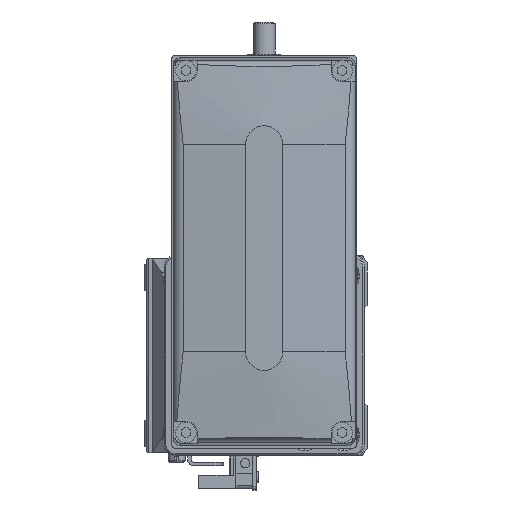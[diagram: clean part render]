
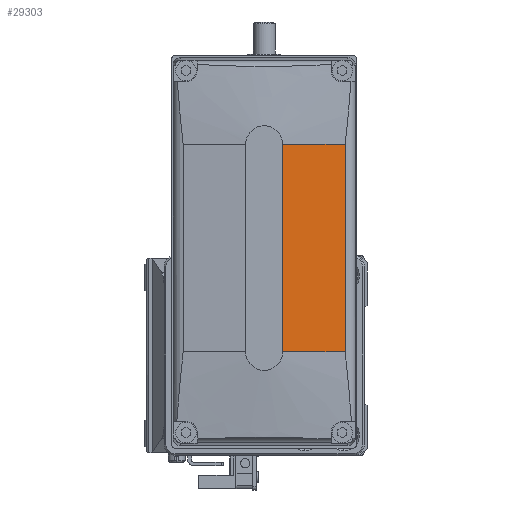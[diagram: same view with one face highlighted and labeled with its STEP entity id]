
A CAD part, left-side view. The second image highlights one B-rep face of the part: STEP entity #29303.
In plain terms, the highlighted planar face has unit normal (-0.996, -0.087, 0) as drawn and (-0.996, 0, -0.087) by its records, which use the part's own axes.
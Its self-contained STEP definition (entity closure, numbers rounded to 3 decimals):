
#229 = DIRECTION ( 'NONE',  ( 0., 1., 0. ) ) ;
#503 = LINE ( 'NONE', #14384, #16624 ) ;
#581 = CARTESIAN_POINT ( 'NONE',  ( -50., 128., -5. ) ) ;
#3541 = DIRECTION ( 'NONE',  ( -0.996, 0., -0.087 ) ) ;
#3961 = CARTESIAN_POINT ( 'NONE',  ( -48.525, -28., -21.861 ) ) ;
#4616 = CARTESIAN_POINT ( 'NONE',  ( -48.525, 128., -21.861 ) ) ;
#4740 = VERTEX_POINT ( 'NONE', #30480 ) ;
#5362 = CARTESIAN_POINT ( 'NONE',  ( -50., 28., -5. ) ) ;
#5903 = LINE ( 'NONE', #4616, #27339 ) ;
#5975 = LINE ( 'NONE', #33634, #19536 ) ;
#6218 = DIRECTION ( 'NONE',  ( 0.087, 0., -0.996 ) ) ;
#7740 = DIRECTION ( 'NONE',  ( 0., 1., 0. ) ) ;
#9220 = ORIENTED_EDGE ( 'NONE', *, *, #19592, .T. ) ;
#11692 = DIRECTION ( 'NONE',  ( -0.087, 0., 0.996 ) ) ;
#11763 = ORIENTED_EDGE ( 'NONE', *, *, #31510, .F. ) ;
#14384 = CARTESIAN_POINT ( 'NONE',  ( -50., 128., -5. ) ) ;
#16624 = VECTOR ( 'NONE', #229, 1000. ) ;
#19536 = VECTOR ( 'NONE', #27732, 1000. ) ;
#19592 = EDGE_CURVE ( 'NONE', #27365, #33649, #503, .T. ) ;
#19841 = CARTESIAN_POINT ( 'NONE',  ( -50., -28., -5. ) ) ;
#21389 = AXIS2_PLACEMENT_3D ( 'NONE', #581, #3541, #11692 ) ;
#21519 = VECTOR ( 'NONE', #6218, 1000. ) ;
#22853 = CARTESIAN_POINT ( 'NONE',  ( 43606.406, -28., -499000. ) ) ;
#23189 = ORIENTED_EDGE ( 'NONE', *, *, #34562, .F. ) ;
#23890 = EDGE_LOOP ( 'NONE', ( #23189, #35617, #11763, #9220 ) ) ;
#24160 = LINE ( 'NONE', #22853, #21519 ) ;
#26441 = VERTEX_POINT ( 'NONE', #3961 ) ;
#27339 = VECTOR ( 'NONE', #7740, 1000. ) ;
#27365 = VERTEX_POINT ( 'NONE', #19841 ) ;
#27732 = DIRECTION ( 'NONE',  ( -0.087, 0., 0.996 ) ) ;
#29303 = ADVANCED_FACE ( 'NONE', ( #29487 ), #33717, .T. ) ;
#29487 = FACE_OUTER_BOUND ( 'NONE', #23890, .T. ) ;
#30480 = CARTESIAN_POINT ( 'NONE',  ( -48.525, 28., -21.861 ) ) ;
#31510 = EDGE_CURVE ( 'NONE', #27365, #26441, #24160, .T. ) ;
#33634 = CARTESIAN_POINT ( 'NONE',  ( 43606.406, 28., -499000. ) ) ;
#33649 = VERTEX_POINT ( 'NONE', #5362 ) ;
#33717 = PLANE ( 'NONE',  #21389 ) ;
#34562 = EDGE_CURVE ( 'NONE', #4740, #33649, #5975, .T. ) ;
#35617 = ORIENTED_EDGE ( 'NONE', *, *, #35714, .F. ) ;
#35714 = EDGE_CURVE ( 'NONE', #26441, #4740, #5903, .T. ) ;
